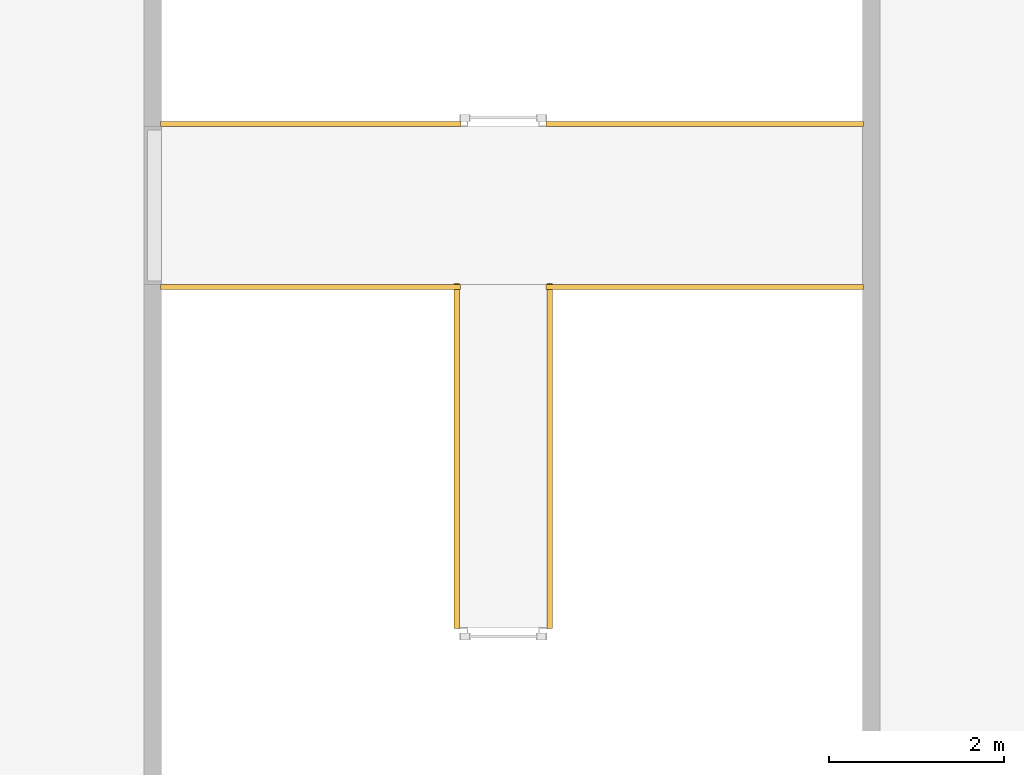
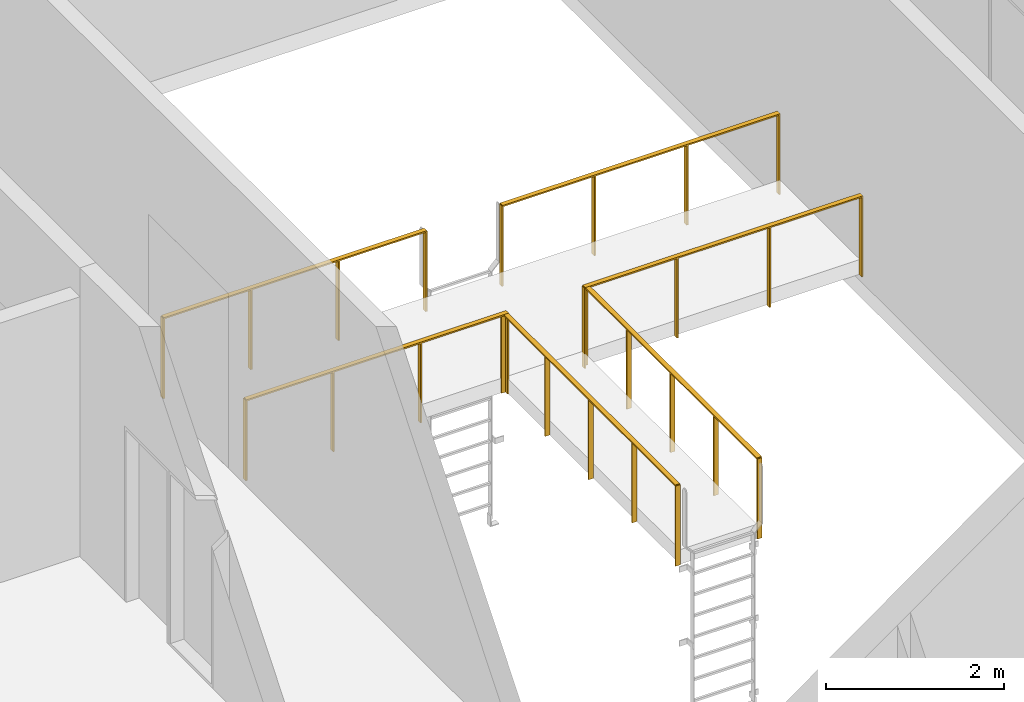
# One storey, part 85 of 89: 6 railings.
"""IFC2X3 building model written with IfcOpenShell, lengths in millimetres."""

from ifc_helpers import new_model, entity, si_unit, converted_unit, derived_unit, money_unit, direction, frame, origin_with_axes, place, context, subcontext, project, spatial, faceted_brep, material, material_list, type_object, element, save


model = new_model("IFC2X3")

# Units and contexts
model_context = context("Model", 3, precision=0.01, world=origin_with_axes(), true_north=direction((0.0, 1.0)))
body_context = subcontext(model_context, "Body", "Model", "MODEL_VIEW")
ifc_project = project(units=[si_unit("LENGTHUNIT", "METRE", prefix="MILLI"), si_unit("AREAUNIT", "SQUARE_METRE"), si_unit("VOLUMEUNIT", "CUBIC_METRE"), converted_unit("PLANEANGLEUNIT", "DEGREE", entity("IfcPlaneAngleMeasure", 0.0174532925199), si_unit("PLANEANGLEUNIT", "RADIAN"), dimensions=[0, 0, 0, 0, 0, 0, 0]), si_unit("SOLIDANGLEUNIT", "STERADIAN"), money_unit("EUR"), converted_unit("TIMEUNIT", "Year", entity("IfcTimeMeasure", 31556926.0), si_unit("TIMEUNIT", "SECOND"), dimensions=[0, 0, 1, 0, 0, 0, 0]), si_unit("MASSUNIT", "GRAM", prefix="KILO"), si_unit("THERMODYNAMICTEMPERATUREUNIT", "DEGREE_CELSIUS"), si_unit("LUMINOUSINTENSITYUNIT", "LUMEN"), si_unit("ENERGYUNIT", "JOULE", prefix="MEGA"), derived_unit("THERMALCONDUCTANCEUNIT", [(si_unit("POWERUNIT", "WATT"), 1), (si_unit("LENGTHUNIT", "METRE"), -1), (si_unit("THERMODYNAMICTEMPERATUREUNIT", "KELVIN"), -1)]), derived_unit("SPECIFICHEATCAPACITYUNIT", [(si_unit("ENERGYUNIT", "JOULE"), 1), (si_unit("MASSUNIT", "GRAM", prefix="KILO"), -1), (si_unit("THERMODYNAMICTEMPERATUREUNIT", "KELVIN"), -1)]), derived_unit("MASSDENSITYUNIT", [(si_unit("MASSUNIT", "GRAM", prefix="KILO"), 1), (si_unit("VOLUMEUNIT", "CUBIC_METRE"), -1)])], contexts=[model_context])

# Site, building, storey
site_placement = place(None, origin_with_axes())
site = spatial("IfcSite", under=ifc_project, at=site_placement, Name="Puškini 31, Narva", CompositionType="ELEMENT")
building_placement = place(site_placement, origin_with_axes())
building = spatial("IfcBuilding", under=site, at=building_placement, Name="Narva Riigigümnaasium", CompositionType="ELEMENT")
storey_placement = place(building_placement, frame((0.0, 0.0, -3300.0), z_axis=(0.0, 0.0, 1.0), x_axis=(1.0, 0.0, 0.0)))
storey = spatial("IfcBuildingStorey", under=building, at=storey_placement, Name="1.korrus -3.3", CompositionType="ELEMENT", Elevation=-3300.0)

# Railings
ifc_material = material(Name="ET-06_Teras - Konstruktsioon")
ifc_material_list_1 = material_list([ifc_material, ifc_material, ifc_material, ifc_material, ifc_material])
railing_type = type_object("IfcRailingType", Name="Railing Type", PredefinedType="NOTDEFINED")
railing_1_placement = place(storey_placement, frame((37200.0042688, 215214.500235, 0.0), z_axis=(0.0, 0.0, 1.0), x_axis=(1.0, 0.0, 0.0)))
element("IfcRailing", 1, at=railing_1_placement, inside=storey, type_object=railing_type, material=ifc_material_list_1, Name="G-SP-22", PredefinedType="NOTDEFINED", context=body_context, shape_type="Brep", body=[
    faceted_brep([(10.0, 0.0, -200.0), (10.0, 60.0, -200.0), (10.0, 60.0, 900.0), (10.0, 0.0, 900.0), (-10.0, 0.0, -200.0), (-10.0, 60.0, -200.0), (-10.0, 60.0, 900.0), (-10.0, 0.0, 900.0)], [[[0, 1, 2, 3]], [[0, 4, 5, 1]], [[1, 5, 6, 2]], [[3, 2, 6, 7]], [[4, 0, 3, 7]], [[5, 4, 7, 6]]]),
    faceted_brep([(3419.84093706, 0.0, -200.0), (3419.84093706, 60.0, -200.0), (3419.84093706, 60.0, 900.0), (3419.84093706, 0.0, 900.0), (3399.84093706, 0.0, -200.0), (3399.84093706, 60.0, -200.0), (3399.84093706, 60.0, 900.0), (3399.84093706, 0.0, 900.0)], [[[0, 1, 2, 3]], [[0, 4, 5, 1]], [[1, 5, 6, 2]], [[3, 2, 6, 7]], [[4, 0, 3, 7]], [[5, 4, 7, 6]]]),
    faceted_brep([(0.0, 0.0, 910.0), (0.0, 0.0, 890.0), (3409.84093706, 0.0, 890.0), (3409.84093706, 0.0, 910.0), (0.0, 60.0, 910.0), (0.0, 60.0, 890.0), (3409.84093706, 60.0, 890.0), (3409.84093706, 60.0, 910.0)], [[[0, 1, 2, 3]], [[0, 4, 5, 1]], [[1, 5, 6, 2]], [[3, 2, 6, 7]], [[4, 0, 3, 7]], [[5, 4, 7, 6]]]),
    faceted_brep([(1146.61364569, 0.0, -200.0), (1146.61364569, 60.0, -200.0), (1146.61364569, 60.0, 900.0), (1146.61364569, 0.0, 900.0), (1126.61364569, 0.0, -200.0), (1126.61364569, 60.0, -200.0), (1126.61364569, 60.0, 900.0), (1126.61364569, 0.0, 900.0)], [[[0, 1, 2, 3]], [[0, 4, 5, 1]], [[1, 5, 6, 2]], [[3, 2, 6, 7]], [[4, 0, 3, 7]], [[5, 4, 7, 6]]]),
    faceted_brep([(2283.22729137, 0.0, -200.0), (2283.22729137, 60.0, -200.0), (2283.22729137, 60.0, 900.0), (2283.22729137, 0.0, 900.0), (2263.22729137, 0.0, -200.0), (2263.22729137, 60.0, -200.0), (2263.22729137, 60.0, 900.0), (2263.22729137, 0.0, 900.0)], [[[0, 1, 2, 3]], [[0, 4, 5, 1]], [[1, 5, 6, 2]], [[3, 2, 6, 7]], [[4, 0, 3, 7]], [[5, 4, 7, 6]]]),
])
railing_2_placement = place(storey_placement, frame((37200.0042688, 213415.002476, 0.0), z_axis=(0.0, 0.0, 1.0), x_axis=(1.0, 0.0, 0.0)))
element("IfcRailing", 2, at=railing_2_placement, inside=storey, type_object=railing_type, material=ifc_material_list_1, Name="G-SP-22", PredefinedType="NOTDEFINED", context=body_context, shape_type="Brep", body=[
    faceted_brep([(10.0, -60.0, -200.0), (10.0, 0.0, -200.0), (10.0, 0.0, 900.0), (10.0, -60.0, 900.0), (-10.0, -60.0, -200.0), (-10.0, 0.0, -200.0), (-10.0, 0.0, 900.0), (-10.0, -60.0, 900.0)], [[[0, 1, 2, 3]], [[0, 4, 5, 1]], [[1, 5, 6, 2]], [[3, 2, 6, 7]], [[4, 0, 3, 7]], [[5, 4, 7, 6]]]),
    faceted_brep([(3410.00135969, -60.0, -200.0), (3410.00135969, 0.0, -200.0), (3410.00135969, 0.0, 900.0), (3410.00135969, -60.0, 900.0), (3390.00135969, -60.0, -200.0), (3390.00135969, 0.0, -200.0), (3390.00135969, 0.0, 900.0), (3390.00135969, -60.0, 900.0)], [[[0, 1, 2, 3]], [[0, 4, 5, 1]], [[1, 5, 6, 2]], [[3, 2, 6, 7]], [[4, 0, 3, 7]], [[5, 4, 7, 6]]]),
    faceted_brep([(0.0, -60.0, 910.0), (0.0, -60.0, 890.0), (3400.00135969, -60.0, 890.0), (3400.00135969, -60.0, 910.0), (0.0, 0.0, 910.0), (0.0, 0.0, 890.0), (3400.00135969, 0.0, 890.0), (3400.00135969, 0.0, 910.0)], [[[0, 1, 2, 3]], [[0, 4, 5, 1]], [[1, 5, 6, 2]], [[3, 2, 6, 7]], [[4, 0, 3, 7]], [[5, 4, 7, 6]]]),
    faceted_brep([(1143.33378656, -60.0, -200.0), (1143.33378656, 0.0, -200.0), (1143.33378656, 0.0, 900.0), (1143.33378656, -60.0, 900.0), (1123.33378656, -60.0, -200.0), (1123.33378656, 0.0, -200.0), (1123.33378656, 0.0, 900.0), (1123.33378656, -60.0, 900.0)], [[[0, 1, 2, 3]], [[0, 4, 5, 1]], [[1, 5, 6, 2]], [[3, 2, 6, 7]], [[4, 0, 3, 7]], [[5, 4, 7, 6]]]),
    faceted_brep([(2276.66757312, -60.0, -200.0), (2276.66757312, 0.0, -200.0), (2276.66757312, 0.0, 900.0), (2276.66757312, -60.0, 900.0), (2256.66757312, -60.0, -200.0), (2256.66757312, 0.0, -200.0), (2256.66757312, 0.0, 900.0), (2256.66757312, -60.0, 900.0)], [[[0, 1, 2, 3]], [[0, 4, 5, 1]], [[1, 5, 6, 2]], [[3, 2, 6, 7]], [[4, 0, 3, 7]], [[5, 4, 7, 6]]]),
])
railing_3_placement = place(storey_placement, frame((41600.0056382, 213415.002476, 0.0), z_axis=(0.0, 0.0, 1.0), x_axis=(1.0, 0.0, 0.0)))
element("IfcRailing", 3, at=railing_3_placement, inside=storey, type_object=railing_type, material=ifc_material_list_1, Name="G-SP-22", PredefinedType="NOTDEFINED", context=body_context, shape_type="Brep", body=[
    faceted_brep([(10.000055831, -59.9999906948, -200.0), (10.0, 9.30515398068e-06, -200.0), (10.0, 9.30515398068e-06, 900.0), (10.000055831, -59.9999906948, 900.0), (-9.99994416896, -60.0000093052, -200.0), (-9.99999999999, -9.30518240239e-06, -200.0), (-9.99999999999, -9.30518240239e-06, 900.0), (-9.99994416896, -60.0000093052, 900.0)], [[[0, 1, 2, 3]], [[0, 4, 5, 1]], [[1, 5, 6, 2]], [[3, 2, 6, 7]], [[4, 0, 3, 7]], [[5, 4, 7, 6]]]),
    faceted_brep([(3609.99963591, -59.9966408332, -200.0), (3609.99958008, 0.00335916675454, -200.0), (3609.99958008, 0.00335916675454, 900.0), (3609.99963591, -59.9966408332, 900.0), (3589.99963591, -59.9966594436, -200.0), (3589.99958008, 0.00334055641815, -200.0), (3589.99958008, 0.00334055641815, 900.0), (3589.99963591, -59.9966594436, 900.0)], [[[0, 1, 2, 3]], [[0, 4, 5, 1]], [[1, 5, 6, 2]], [[3, 2, 6, 7]], [[4, 0, 3, 7]], [[5, 4, 7, 6]]]),
    faceted_brep([(5.58310375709e-05, -60.0, 910.0), (5.58310375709e-05, -60.0, 890.0), (3599.99963591, -59.9966501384, 890.0), (3599.99963591, -59.9966501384, 910.0), (0.0, 0.0, 910.0), (0.0, 0.0, 890.0), (3599.99958008, 0.00334986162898, 890.0), (3599.99958008, 0.00334986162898, 910.0)], [[[0, 1, 2, 3]], [[0, 4, 5, 1]], [[1, 5, 6, 2]], [[3, 2, 6, 7]], [[4, 0, 3, 7]], [[5, 4, 7, 6]]]),
    faceted_brep([(1209.99991586, -59.9988740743, -200.0), (1209.99986003, 0.00112592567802, -200.0), (1209.99986003, 0.00112592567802, 900.0), (1209.99991586, -59.9988740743, 900.0), (1189.99991586, -59.9988926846, -200.0), (1189.99986003, 0.00110731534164, -200.0), (1189.99986003, 0.00110731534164, 900.0), (1189.99991586, -59.9988926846, 900.0)], [[[0, 1, 2, 3]], [[0, 4, 5, 1]], [[1, 5, 6, 2]], [[3, 2, 6, 7]], [[4, 0, 3, 7]], [[5, 4, 7, 6]]]),
    faceted_brep([(2409.99977589, -59.9977574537, -200.0), (2409.99972006, 0.00224254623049, -200.0), (2409.99972006, 0.00224254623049, 900.0), (2409.99977589, -59.9977574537, 900.0), (2389.99977589, -59.9977760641, -200.0), (2389.99972006, 0.00222393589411, -200.0), (2389.99972006, 0.00222393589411, 900.0), (2389.99977589, -59.9977760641, 900.0)], [[[0, 1, 2, 3]], [[0, 4, 5, 1]], [[1, 5, 6, 2]], [[3, 2, 6, 7]], [[4, 0, 3, 7]], [[5, 4, 7, 6]]]),
])
railing_4_placement = place(storey_placement, frame((41600.0056382, 215215.003204, 0.0), z_axis=(0.0, 0.0, 1.0), x_axis=(1.0, 0.0, 0.0)))
element("IfcRailing", 4, at=railing_4_placement, inside=storey, type_object=railing_type, material=ifc_material_list_1, Name="G-SP-22", PredefinedType="NOTDEFINED", context=body_context, shape_type="Brep", body=[
    faceted_brep([(10.0, -9.30515398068e-06, -200.0), (10.000055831, 59.9999906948, -200.0), (10.000055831, 59.9999906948, 900.0), (10.0, -9.30515398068e-06, 900.0), (-9.99999999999, 9.30518240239e-06, -200.0), (-9.99994416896, 60.0000093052, -200.0), (-9.99994416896, 60.0000093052, 900.0), (-9.99999999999, 9.30518240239e-06, 900.0)], [[[0, 1, 2, 3]], [[0, 4, 5, 1]], [[1, 5, 6, 2]], [[3, 2, 6, 7]], [[4, 0, 3, 7]], [[5, 4, 7, 6]]]),
    faceted_brep([(3609.99958008, -0.00335916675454, -200.0), (3609.99963591, 59.9966408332, -200.0), (3609.99963591, 59.9966408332, 900.0), (3609.99958008, -0.00335916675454, 900.0), (3589.99958008, -0.00334055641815, -200.0), (3589.99963591, 59.9966594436, -200.0), (3589.99963591, 59.9966594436, 900.0), (3589.99958008, -0.00334055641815, 900.0)], [[[0, 1, 2, 3]], [[0, 4, 5, 1]], [[1, 5, 6, 2]], [[3, 2, 6, 7]], [[4, 0, 3, 7]], [[5, 4, 7, 6]]]),
    faceted_brep([(0.0, 0.0, 910.0), (0.0, 0.0, 890.0), (3599.99958008, -0.00334986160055, 890.0), (3599.99958008, -0.00334986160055, 910.0), (5.58310375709e-05, 60.0, 910.0), (5.58310375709e-05, 60.0, 890.0), (3599.99963591, 59.9966501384, 890.0), (3599.99963591, 59.9966501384, 910.0)], [[[0, 1, 2, 3]], [[0, 4, 5, 1]], [[1, 5, 6, 2]], [[3, 2, 6, 7]], [[4, 0, 3, 7]], [[5, 4, 7, 6]]]),
    faceted_brep([(1209.99986003, -0.00112592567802, -200.0), (1209.99991586, 59.9988740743, -200.0), (1209.99991586, 59.9988740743, 900.0), (1209.99986003, -0.00112592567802, 900.0), (1189.99986003, -0.00110731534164, -200.0), (1189.99991586, 59.9988926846, -200.0), (1189.99991586, 59.9988926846, 900.0), (1189.99986003, -0.00110731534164, 900.0)], [[[0, 1, 2, 3]], [[0, 4, 5, 1]], [[1, 5, 6, 2]], [[3, 2, 6, 7]], [[4, 0, 3, 7]], [[5, 4, 7, 6]]]),
    faceted_brep([(2409.99972006, -0.00224254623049, -200.0), (2409.99977589, 59.9977574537, -200.0), (2409.99977589, 59.9977574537, 900.0), (2409.99972006, -0.00224254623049, 900.0), (2389.99972006, -0.00222393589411, -200.0), (2389.99977589, 59.9977760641, -200.0), (2389.99977589, 59.9977760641, 900.0), (2389.99972006, -0.00222393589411, 900.0)], [[[0, 1, 2, 3]], [[0, 4, 5, 1]], [[1, 5, 6, 2]], [[3, 2, 6, 7]], [[4, 0, 3, 7]], [[5, 4, 7, 6]]]),
])
ifc_material_list_2 = material_list([ifc_material, ifc_material, ifc_material, ifc_material, ifc_material, ifc_material])
railing_5_placement = place(storey_placement, frame((40600.0056285, 213415.002476, 0.0), z_axis=(0.0, 0.0, 1.0), x_axis=(1.0, 0.0, 0.0)))
element("IfcRailing", 5, at=railing_5_placement, inside=storey, type_object=railing_type, material=ifc_material_list_2, Name="G-SP-22", PredefinedType="NOTDEFINED", context=body_context, shape_type="Brep", body=[
    faceted_brep([(-60.0, -9.99999999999, -200.0), (0.0, -9.99999999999, -200.0), (0.0, -9.99999999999, 900.0), (-60.0, -9.99999999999, 900.0), (-60.0, 9.99999999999, -200.0), (0.0, 9.99999999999, -200.0), (0.0, 9.99999999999, 900.0), (-60.0, 9.99999999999, 900.0)], [[[0, 1, 2, 3]], [[0, 4, 5, 1]], [[1, 5, 6, 2]], [[3, 2, 6, 7]], [[4, 0, 3, 7]], [[5, 4, 7, 6]]]),
    faceted_brep([(-60.0, -3926.84181019, -200.0), (0.0, -3926.84181019, -200.0), (0.0, -3926.84181019, 900.0), (-60.0, -3926.84181019, 900.0), (-60.0, -3906.84181019, -200.0), (0.0, -3906.84181019, -200.0), (0.0, -3906.84181019, 900.0), (-60.0, -3906.84181019, 900.0)], [[[0, 1, 2, 3]], [[0, 4, 5, 1]], [[1, 5, 6, 2]], [[3, 2, 6, 7]], [[4, 0, 3, 7]], [[5, 4, 7, 6]]]),
    faceted_brep([(-60.0, 0.0, 910.0), (-60.0, 0.0, 890.0), (-60.0, -3916.84181019, 890.0), (-60.0, -3916.84181019, 910.0), (0.0, 0.0, 910.0), (0.0, 0.0, 890.0), (0.0, -3916.84181019, 890.0), (0.0, -3916.84181019, 910.0)], [[[0, 1, 2, 3]], [[0, 4, 5, 1]], [[1, 5, 6, 2]], [[3, 2, 6, 7]], [[4, 0, 3, 7]], [[5, 4, 7, 6]]]),
    faceted_brep([(-60.0, -989.210452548, -200.0), (0.0, -989.210452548, -200.0), (0.0, -989.210452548, 900.0), (-60.0, -989.210452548, 900.0), (-60.0, -969.210452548, -200.0), (0.0, -969.210452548, -200.0), (0.0, -969.210452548, 900.0), (-60.0, -969.210452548, 900.0)], [[[0, 1, 2, 3]], [[0, 4, 5, 1]], [[1, 5, 6, 2]], [[3, 2, 6, 7]], [[4, 0, 3, 7]], [[5, 4, 7, 6]]]),
    faceted_brep([(-60.0, -1968.4209051, -200.0), (0.0, -1968.4209051, -200.0), (0.0, -1968.4209051, 900.0), (-60.0, -1968.4209051, 900.0), (-60.0, -1948.4209051, -200.0), (0.0, -1948.4209051, -200.0), (0.0, -1948.4209051, 900.0), (-60.0, -1948.4209051, 900.0)], [[[0, 1, 2, 3]], [[0, 4, 5, 1]], [[1, 5, 6, 2]], [[3, 2, 6, 7]], [[4, 0, 3, 7]], [[5, 4, 7, 6]]]),
    faceted_brep([(-60.0, -2947.63135764, -200.0), (0.0, -2947.63135764, -200.0), (0.0, -2947.63135764, 900.0), (-60.0, -2947.63135764, 900.0), (-60.0, -2927.63135764, -200.0), (0.0, -2927.63135764, -200.0), (0.0, -2927.63135764, 900.0), (-60.0, -2927.63135764, 900.0)], [[[0, 1, 2, 3]], [[0, 4, 5, 1]], [[1, 5, 6, 2]], [[3, 2, 6, 7]], [[4, 0, 3, 7]], [[5, 4, 7, 6]]]),
])
railing_6_placement = place(storey_placement, frame((41600.0056382, 213415.003204, 0.0), z_axis=(0.0, 0.0, 1.0), x_axis=(-0.999999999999, -1.4564617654e-06, 0.0)))
element("IfcRailing", 6, at=railing_6_placement, inside=storey, type_object=railing_type, material=ifc_material_list_2, Name="G-SP-22", PredefinedType="NOTDEFINED", context=body_context, shape_type="Brep", body=[
    faceted_brep([(0.0, 9.99999999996, -200.0), (-60.0, 9.99999999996, -200.0), (-60.0, 9.99999999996, 900.0), (0.0, 9.99999999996, 900.0), (0.0, -10.0, -200.0), (-60.0, -10.0, -200.0), (-60.0, -10.0, 900.0), (0.0, -10.0, 900.0)], [[[0, 1, 2, 3]], [[0, 4, 5, 1]], [[1, 5, 6, 2]], [[3, 2, 6, 7]], [[4, 0, 3, 7]], [[5, 4, 7, 6]]]),
    faceted_brep([(0.0, 3926.84181019, -200.0), (-60.0, 3926.84181019, -200.0), (-60.0, 3926.84181019, 900.0), (0.0, 3926.84181019, 900.0), (0.0, 3906.84181019, -200.0), (-60.0, 3906.84181019, -200.0), (-60.0, 3906.84181019, 900.0), (0.0, 3906.84181019, 900.0)], [[[0, 1, 2, 3]], [[0, 4, 5, 1]], [[1, 5, 6, 2]], [[3, 2, 6, 7]], [[4, 0, 3, 7]], [[5, 4, 7, 6]]]),
    faceted_brep([(0.0, 0.0, 910.0), (0.0, 0.0, 890.0), (0.0, 3916.84181019, 890.0), (0.0, 3916.84181019, 910.0), (-60.0, 0.0, 910.0), (-60.0, 0.0, 890.0), (-60.0, 3916.84181019, 890.0), (-60.0, 3916.84181019, 910.0)], [[[0, 1, 2, 3]], [[0, 4, 5, 1]], [[1, 5, 6, 2]], [[3, 2, 6, 7]], [[4, 0, 3, 7]], [[5, 4, 7, 6]]]),
    faceted_brep([(0.0, 989.210452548, -200.0), (-60.0, 989.210452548, -200.0), (-60.0, 989.210452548, 900.0), (0.0, 989.210452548, 900.0), (0.0, 969.210452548, -200.0), (-60.0, 969.210452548, -200.0), (-60.0, 969.210452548, 900.0), (0.0, 969.210452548, 900.0)], [[[0, 1, 2, 3]], [[0, 4, 5, 1]], [[1, 5, 6, 2]], [[3, 2, 6, 7]], [[4, 0, 3, 7]], [[5, 4, 7, 6]]]),
    faceted_brep([(0.0, 1968.4209051, -200.0), (-60.0, 1968.4209051, -200.0), (-60.0, 1968.4209051, 900.0), (0.0, 1968.4209051, 900.0), (0.0, 1948.4209051, -200.0), (-60.0, 1948.4209051, -200.0), (-60.0, 1948.4209051, 900.0), (0.0, 1948.4209051, 900.0)], [[[0, 1, 2, 3]], [[0, 4, 5, 1]], [[1, 5, 6, 2]], [[3, 2, 6, 7]], [[4, 0, 3, 7]], [[5, 4, 7, 6]]]),
    faceted_brep([(0.0, 2947.63135764, -200.0), (-60.0, 2947.63135764, -200.0), (-60.0, 2947.63135764, 900.0), (0.0, 2947.63135764, 900.0), (0.0, 2927.63135764, -200.0), (-60.0, 2927.63135764, -200.0), (-60.0, 2927.63135764, 900.0), (0.0, 2927.63135764, 900.0)], [[[0, 1, 2, 3]], [[0, 4, 5, 1]], [[1, 5, 6, 2]], [[3, 2, 6, 7]], [[4, 0, 3, 7]], [[5, 4, 7, 6]]]),
])

save(model, "model.ifc")
